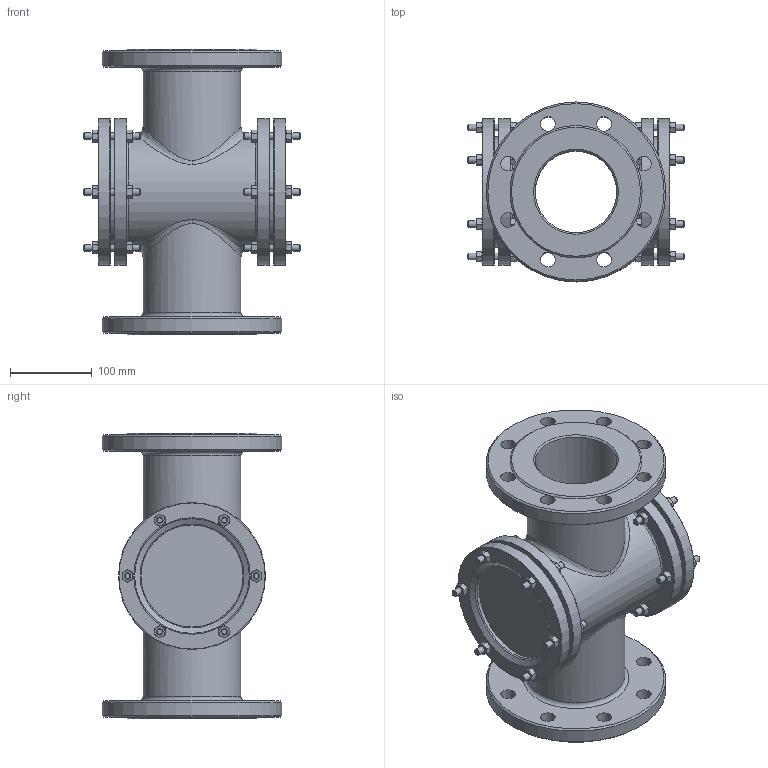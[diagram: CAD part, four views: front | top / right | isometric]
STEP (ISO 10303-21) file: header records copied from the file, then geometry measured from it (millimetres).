
FILE_DESCRIPTION(('STEP AP242'), '1');
FILE_NAME('SG2-35S-F Ñòåêëî ñìîòðîâîå DN.ru Äó100 Ðó16', '', ('UNSPECIFIED'), ('UNSPECIFIED'), 'C3D Converter', 'C3D Toolkit', '');
FILE_SCHEMA(('AP242_MANAGED_MODEL_BASED_3D_ENGINEERING_MIM_LF { 1 0 10303 442 1 1 4 }'));
Length unit declared in the file: millimetre
Products named in the file (1): SG2-35S-F
Bounding box: 265.5 x 220 x 350 mm (x, y, z)
Volume: 3291911 mm3; surface area: 595335.7 mm2
Topology: 1 solids, 1 shells, 691 faces, 1594 edges, 959 vertices
Faces by surface type: cone 322, plane 247, cylinder 75, bspline 31, torus 16
Full cylindrical faces by diameter (mm): 8 x36, 18 x16, 100 x2, 120 x2, 125 x3, 135 x2, 140 x1, 180 x4, 220 x2
Entity records: 37032 total; most frequent: CARTESIAN_POINT 21152, ORIENTED_EDGE 2934, DIRECTION 2706, EDGE_CURVE 1467, AXIS2_PLACEMENT_3D 1236, VERTEX_POINT 953, EDGE_LOOP 938, FACE_BOUND 800
